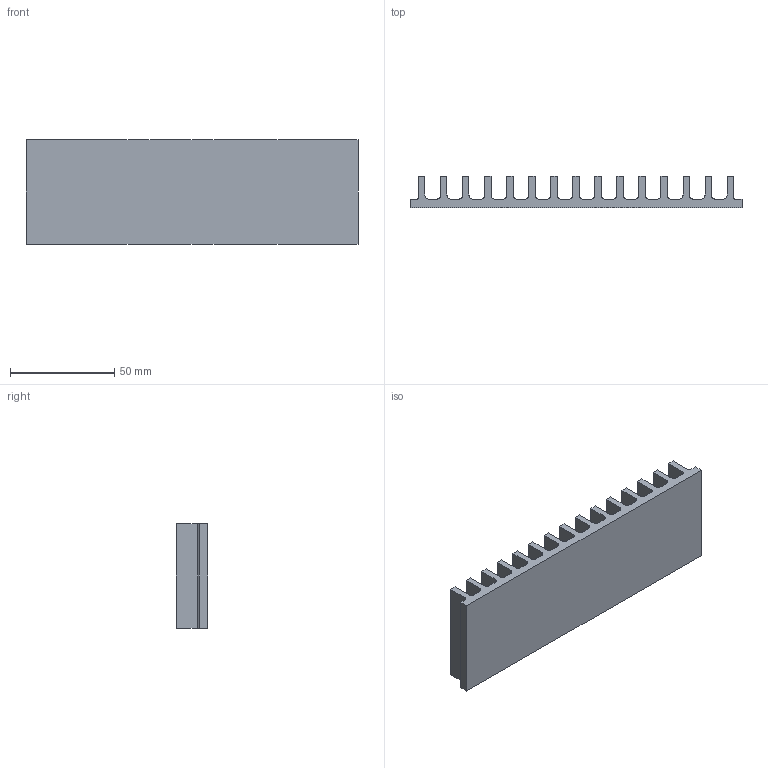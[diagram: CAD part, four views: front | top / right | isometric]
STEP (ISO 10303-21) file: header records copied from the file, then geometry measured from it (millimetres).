
FILE_DESCRIPTION (( 'STEP AP203' ), '1' );
FILE_NAME ('PR 158-50.step', '2002-10-20T23:54:00', ( 'Wolfgang Müller' ), ( 'DPS' ), 'SwSTEP 2.0', 'SolidWorks 2002264', '' );
FILE_SCHEMA (( 'CONFIG_CONTROL_DESIGN' ));
Length unit declared in the file: millimetre
Products named in the file (1): PR 158-50
Bounding box: 159 x 15 x 50 mm (x, y, z)
Volume: 57773.2 mm3; surface area: 33866.2 mm2
Topology: 1 solids, 1 shells, 96 faces, 282 edges, 188 vertices
Faces by surface type: plane 66, cylinder 30
Entity records: 3263 total; most frequent: CARTESIAN_POINT 567, ORIENTED_EDGE 564, DIRECTION 536, EDGE_CURVE 282, LINE 222, VECTOR 222, VERTEX_POINT 188, AXIS2_PLACEMENT_3D 157
